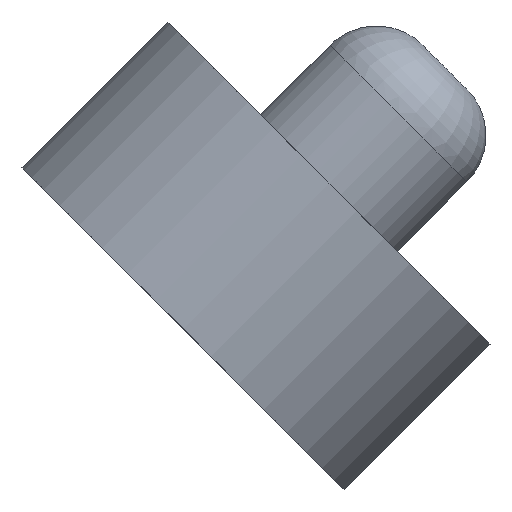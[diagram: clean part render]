
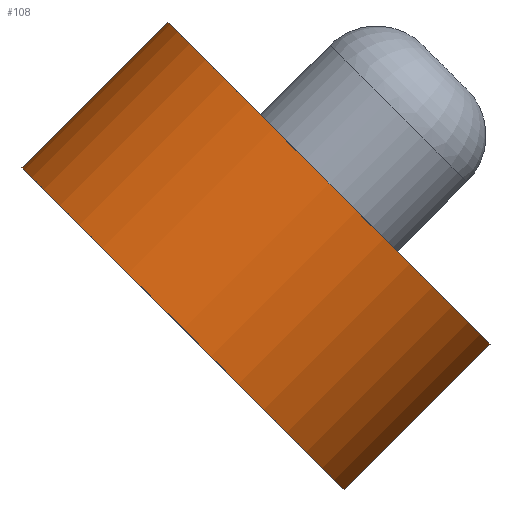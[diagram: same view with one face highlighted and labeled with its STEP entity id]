
A CAD part, front view. The second image highlights one B-rep face of the part: STEP entity #108.
In plain terms, the highlighted cylindrical face has radius 6.95 mm (diameter 13.9 mm), a partial arc.
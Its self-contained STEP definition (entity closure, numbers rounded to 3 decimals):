
#12 = CARTESIAN_POINT ( 'NONE',  ( -32.845, 517., 10.218 ) ) ;
#28 = CYLINDRICAL_SURFACE ( 'NONE', #67, 6.95 ) ;
#39 = VECTOR ( 'NONE', #382, 1000. ) ;
#60 = EDGE_CURVE ( 'NONE', #379, #97, #306, .T. ) ;
#63 = AXIS2_PLACEMENT_3D ( 'NONE', #12, #260, #378 ) ;
#67 = AXIS2_PLACEMENT_3D ( 'NONE', #142, #147, #179 ) ;
#80 = CARTESIAN_POINT ( 'NONE',  ( -28.39, 517., 14.672 ) ) ;
#87 = LINE ( 'NONE', #269, #39 ) ;
#97 = VERTEX_POINT ( 'NONE', #172 ) ;
#100 = VERTEX_POINT ( 'NONE', #299 ) ;
#108 = ADVANCED_FACE ( 'NONE', ( #240 ), #28, .T. ) ;
#133 = CARTESIAN_POINT ( 'NONE',  ( -27.931, 517., 5.303 ) ) ;
#137 = EDGE_CURVE ( 'NONE', #379, #343, #87, .T. ) ;
#142 = CARTESIAN_POINT ( 'NONE',  ( -28.39, 517., 14.672 ) ) ;
#147 = DIRECTION ( 'NONE',  ( -0.707, 0., -0.707 ) ) ;
#154 = LINE ( 'NONE', #174, #228 ) ;
#160 = AXIS2_PLACEMENT_3D ( 'NONE', #80, #252, #161 ) ;
#161 = DIRECTION ( 'NONE',  ( -0.707, 0., 0.707 ) ) ;
#172 = CARTESIAN_POINT ( 'NONE',  ( -33.305, 517., 19.587 ) ) ;
#174 = CARTESIAN_POINT ( 'NONE',  ( -33.305, 517., 19.587 ) ) ;
#179 = DIRECTION ( 'NONE',  ( -0.707, 0., 0.707 ) ) ;
#184 = DIRECTION ( 'NONE',  ( -0.707, 0., -0.707 ) ) ;
#185 = ORIENTED_EDGE ( 'NONE', *, *, #60, .T. ) ;
#187 = EDGE_LOOP ( 'NONE', ( #248, #258, #345, #185 ) ) ;
#228 = VECTOR ( 'NONE', #184, 1000. ) ;
#240 = FACE_OUTER_BOUND ( 'NONE', #187, .T. ) ;
#244 = CARTESIAN_POINT ( 'NONE',  ( -23.476, 517., 9.758 ) ) ;
#248 = ORIENTED_EDGE ( 'NONE', *, *, #375, .T. ) ;
#252 = DIRECTION ( 'NONE',  ( -0.707, 0., -0.707 ) ) ;
#258 = ORIENTED_EDGE ( 'NONE', *, *, #292, .F. ) ;
#260 = DIRECTION ( 'NONE',  ( -0.707, 0., -0.707 ) ) ;
#269 = CARTESIAN_POINT ( 'NONE',  ( -23.476, 517., 9.758 ) ) ;
#292 = EDGE_CURVE ( 'NONE', #343, #100, #352, .T. ) ;
#299 = CARTESIAN_POINT ( 'NONE',  ( -37.76, 517., 15.132 ) ) ;
#306 = CIRCLE ( 'NONE', #160, 6.95 ) ;
#343 = VERTEX_POINT ( 'NONE', #133 ) ;
#345 = ORIENTED_EDGE ( 'NONE', *, *, #137, .F. ) ;
#352 = CIRCLE ( 'NONE', #63, 6.95 ) ;
#375 = EDGE_CURVE ( 'NONE', #97, #100, #154, .T. ) ;
#378 = DIRECTION ( 'NONE',  ( -0.707, 0., 0.707 ) ) ;
#379 = VERTEX_POINT ( 'NONE', #244 ) ;
#382 = DIRECTION ( 'NONE',  ( -0.707, 0., -0.707 ) ) ;
